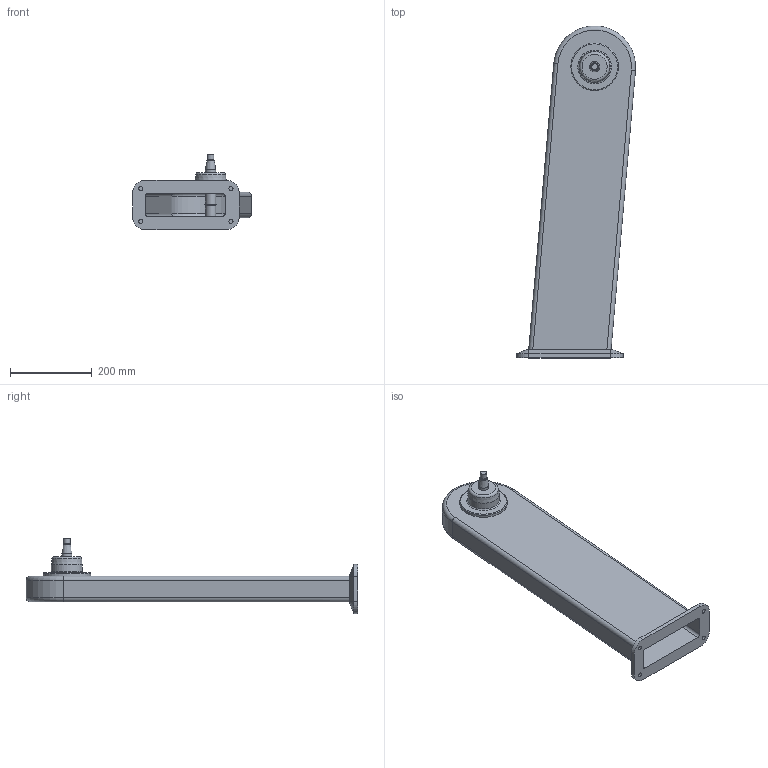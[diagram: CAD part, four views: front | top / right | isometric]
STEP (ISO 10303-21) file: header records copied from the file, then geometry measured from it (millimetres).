
FILE_DESCRIPTION (( 'STEP AP214' ), '1' );
FILE_NAME ('WP800_H710_+05.STEP', '2014-06-26T09:19:02', ( '' ), ( '' ), 'SwSTEP 2.0', 'SolidWorks 2014', '' );
FILE_SCHEMA (( 'AUTOMOTIVE_DESIGN' ));
Length unit declared in the file: millimetre
Products named in the file (1): WP800_H710_+05
Bounding box: 289.99 x 809.62 x 183.29 mm (x, y, z)
Volume: 1780784.3 mm3; surface area: 857722.8 mm2
Topology: 1 solids, 1 shells, 68 faces, 141 edges, 85 vertices
Faces by surface type: plane 26, cylinder 25, cone 10, torus 7
Full cylindrical faces by diameter (mm): 10 x4, 14.5 x1, 16 x1, 25 x3, 76 x1, 116 x1
Entity records: 1724 total; most frequent: DIRECTION 308, CARTESIAN_POINT 299, ORIENTED_EDGE 242, AXIS2_PLACEMENT_3D 126, EDGE_CURVE 121, EDGE_LOOP 100, VERTEX_POINT 85, FACE_OUTER_BOUND 82
